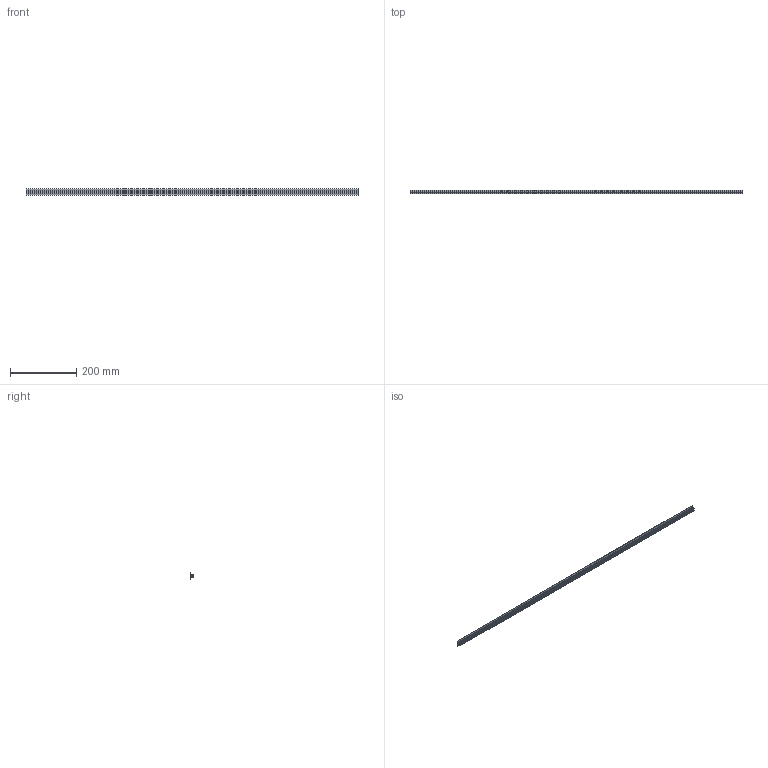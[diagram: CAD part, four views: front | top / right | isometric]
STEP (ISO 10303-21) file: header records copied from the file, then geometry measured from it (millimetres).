
FILE_DESCRIPTION (( 'STEP AP214' ), '1' );
FILE_NAME ('J3MPY.step', '2017-05-24T07:39:47', ( 'admin' ), ( '' ), 'SwSTEP 2.0', 'SolidWorks 2014', '' );
FILE_SCHEMA (( 'AUTOMOTIVE_DESIGN' ));
Length unit declared in the file: millimetre
Products named in the file (1): J3MPY
Bounding box: 1000 x 11 x 20 mm (x, y, z)
Volume: 40825.3 mm3; surface area: 80963.8 mm2
Topology: 1 solids, 1 shells, 48 faces, 138 edges, 92 vertices
Faces by surface type: plane 24, cylinder 24
Entity records: 1624 total; most frequent: DIRECTION 284, CARTESIAN_POINT 279, ORIENTED_EDGE 276, EDGE_CURVE 138, AXIS2_PLACEMENT_3D 97, VERTEX_POINT 92, LINE 90, VECTOR 90
